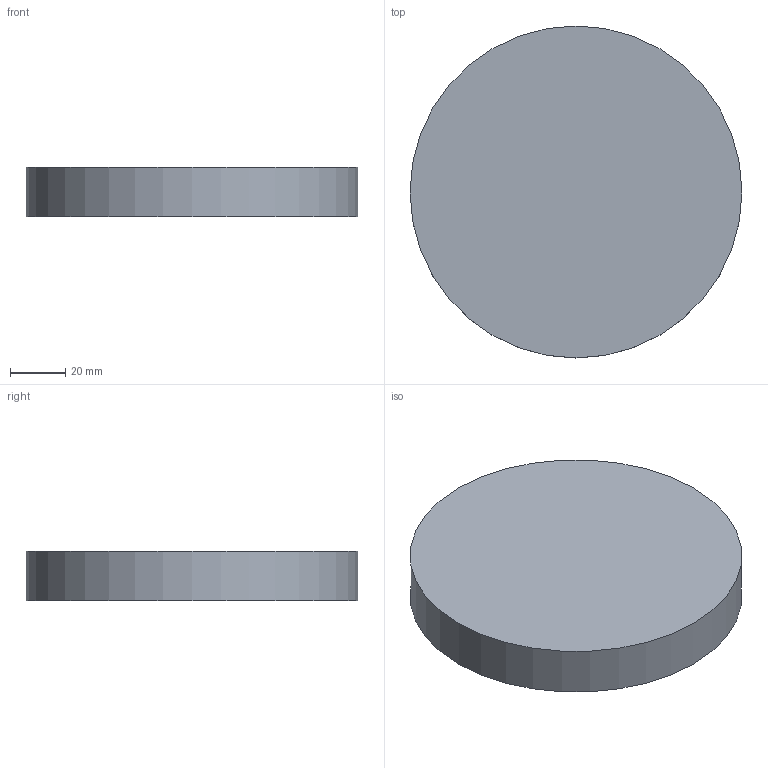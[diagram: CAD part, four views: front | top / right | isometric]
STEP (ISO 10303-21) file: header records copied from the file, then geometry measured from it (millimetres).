
FILE_DESCRIPTION(('Open CASCADE Model'),'2;1');
FILE_NAME('Open CASCADE Shape Model','2026-10-10T15:34:57',('Author'),( 'Open CASCADE'),'Open CASCADE STEP processor 7.9','Open CASCADE 7.9' ,'Unknown');
FILE_SCHEMA(('AUTOMOTIVE_DESIGN { 1 0 10303 214 1 1 1 1 }'));
Length unit declared in the file: millimetre
Products named in the file (1): Open CASCADE STEP translator 7.9 5
Bounding box: 120 x 120 x 18 mm (x, y, z)
Volume: 203575.2 mm3; surface area: 29405.3 mm2
Topology: 1 solids, 1 shells, 3 faces, 3 edges, 2 vertices
Faces by surface type: plane 2, cylinder 1
Full cylindrical faces by diameter (mm): 120 x1
Entity records: 108 total; most frequent: DIRECTION 19, CARTESIAN_POINT 15, AXIS2_PLACEMENT_3D 6, ORIENTED_EDGE 6, PCURVE 6, DEFINITIONAL_REPRESENTATION 6, LINE 5, VECTOR 5
